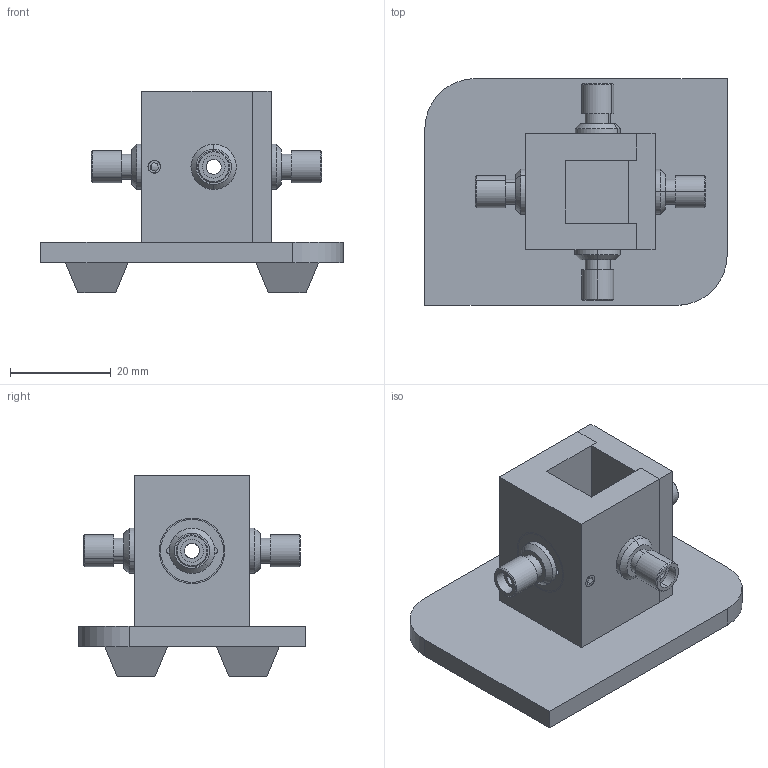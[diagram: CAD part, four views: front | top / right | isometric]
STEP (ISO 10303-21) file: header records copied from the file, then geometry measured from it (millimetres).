
FILE_DESCRIPTION (( 'STEP AP203' ), '1' );
FILE_NAME ('7ISC2嫖玹蚚欴こ弅.STEP', '2020-02-19T08:32:01', ( '' ), ( '' ), 'SwSTEP 2.0', 'SolidWorks 2018', '' );
FILE_SCHEMA (( 'CONFIG_CONTROL_DESIGN' ));
Length unit declared in the file: millimetre
Products named in the file (1): 7ISC2嫖玹蚚欴こ弅
Bounding box: 60 x 45 x 40 mm (x, y, z)
Surface area: 14434.4 mm2 (no closed solid volume)
Topology: 0 solids, 26 shells, 248 faces, 656 edges, 425 vertices
Faces by surface type: plane 126, cylinder 76, cone 32, torus 14
Entity records: 7675 total; most frequent: CARTESIAN_POINT 1448, DIRECTION 1374, ORIENTED_EDGE 1105, EDGE_CURVE 642, AXIS2_PLACEMENT_3D 517, VERTEX_POINT 425, VECTOR 340, LINE 340
